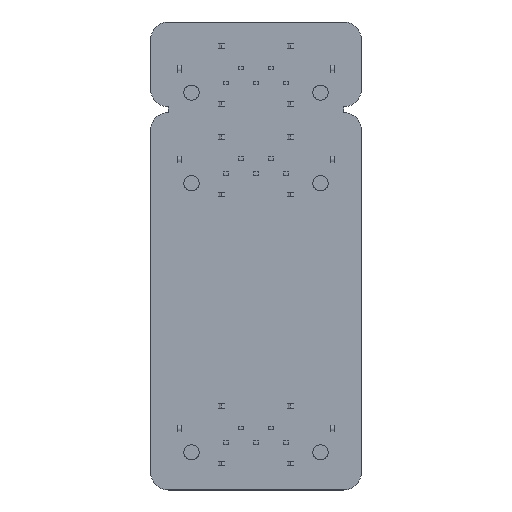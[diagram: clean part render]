
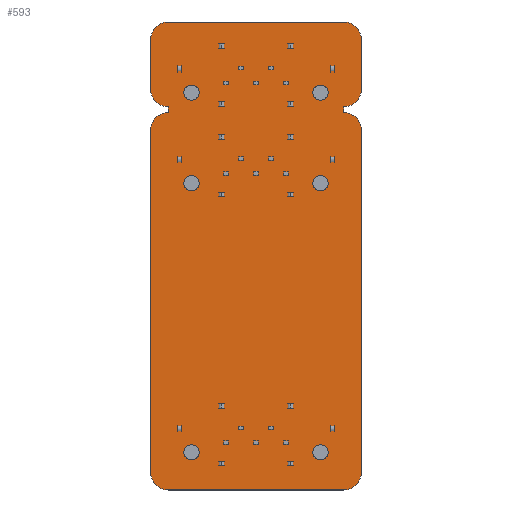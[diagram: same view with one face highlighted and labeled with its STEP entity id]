
A CAD part, top view. The second image highlights one B-rep face of the part: STEP entity #593.
In plain terms, the highlighted planar face has unit normal (0, 0, 1).
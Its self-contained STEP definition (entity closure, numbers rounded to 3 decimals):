
#64 = VERTEX_POINT('',#65);
#65 = CARTESIAN_POINT('',(-3.81,-2.032,0.691));
#71 = EDGE_CURVE('',#64,#72,#74,.T.);
#72 = VERTEX_POINT('',#73);
#73 = CARTESIAN_POINT('',(-4.572,-1.27,0.691));
#74 = CIRCLE('',#75,0.761);
#75 = AXIS2_PLACEMENT_3D('',#76,#77,#78);
#76 = CARTESIAN_POINT('',(-3.811,-1.271,0.691));
#77 = DIRECTION('',(0.,0.,-1.));
#78 = DIRECTION('',(0.001,-1.,0.));
#104 = EDGE_CURVE('',#72,#105,#107,.T.);
#105 = VERTEX_POINT('',#106);
#106 = CARTESIAN_POINT('',(-4.572,13.589,0.691));
#107 = LINE('',#108,#109);
#108 = CARTESIAN_POINT('',(-4.572,-1.27,0.691));
#109 = VECTOR('',#110,1.);
#110 = DIRECTION('',(0.,1.,0.));
#135 = EDGE_CURVE('',#105,#136,#138,.T.);
#136 = VERTEX_POINT('',#137);
#137 = CARTESIAN_POINT('',(-3.81,14.351,0.691));
#138 = CIRCLE('',#139,0.761);
#139 = AXIS2_PLACEMENT_3D('',#140,#141,#142);
#140 = CARTESIAN_POINT('',(-3.811,13.59,0.691));
#141 = DIRECTION('',(0.,0.,-1.));
#142 = DIRECTION('',(-1.,-0.001,0.));
#168 = EDGE_CURVE('',#136,#169,#171,.T.);
#169 = VERTEX_POINT('',#170);
#170 = CARTESIAN_POINT('',(-3.81,14.605,0.691));
#171 = LINE('',#172,#173);
#172 = CARTESIAN_POINT('',(-3.81,14.351,0.691));
#173 = VECTOR('',#174,1.);
#174 = DIRECTION('',(0.,1.,0.));
#199 = EDGE_CURVE('',#169,#200,#202,.T.);
#200 = VERTEX_POINT('',#201);
#201 = CARTESIAN_POINT('',(-4.572,15.367,0.691));
#202 = CIRCLE('',#203,0.761);
#203 = AXIS2_PLACEMENT_3D('',#204,#205,#206);
#204 = CARTESIAN_POINT('',(-3.811,15.366,0.691));
#205 = DIRECTION('',(0.,0.,-1.));
#206 = DIRECTION('',(0.001,-1.,0.));
#232 = EDGE_CURVE('',#200,#233,#235,.T.);
#233 = VERTEX_POINT('',#234);
#234 = CARTESIAN_POINT('',(-4.572,17.526,0.691));
#235 = LINE('',#236,#237);
#236 = CARTESIAN_POINT('',(-4.572,15.367,0.691));
#237 = VECTOR('',#238,1.);
#238 = DIRECTION('',(0.,1.,0.));
#263 = EDGE_CURVE('',#233,#264,#266,.T.);
#264 = VERTEX_POINT('',#265);
#265 = CARTESIAN_POINT('',(-3.81,18.288,0.691));
#266 = CIRCLE('',#267,0.761);
#267 = AXIS2_PLACEMENT_3D('',#268,#269,#270);
#268 = CARTESIAN_POINT('',(-3.811,17.527,0.691));
#269 = DIRECTION('',(0.,0.,-1.));
#270 = DIRECTION('',(-1.,-0.001,0.));
#296 = EDGE_CURVE('',#264,#297,#299,.T.);
#297 = VERTEX_POINT('',#298);
#298 = CARTESIAN_POINT('',(3.81,18.288,0.691));
#299 = LINE('',#300,#301);
#300 = CARTESIAN_POINT('',(-3.81,18.288,0.691));
#301 = VECTOR('',#302,1.);
#302 = DIRECTION('',(1.,0.,0.));
#327 = EDGE_CURVE('',#297,#328,#330,.T.);
#328 = VERTEX_POINT('',#329);
#329 = CARTESIAN_POINT('',(4.572,17.526,0.691));
#330 = CIRCLE('',#331,0.761);
#331 = AXIS2_PLACEMENT_3D('',#332,#333,#334);
#332 = CARTESIAN_POINT('',(3.811,17.527,0.691));
#333 = DIRECTION('',(0.,0.,-1.));
#334 = DIRECTION('',(-0.001,1.,0.));
#360 = EDGE_CURVE('',#328,#361,#363,.T.);
#361 = VERTEX_POINT('',#362);
#362 = CARTESIAN_POINT('',(4.572,15.367,0.691));
#363 = LINE('',#364,#365);
#364 = CARTESIAN_POINT('',(4.572,17.526,0.691));
#365 = VECTOR('',#366,1.);
#366 = DIRECTION('',(0.,-1.,0.));
#391 = EDGE_CURVE('',#361,#392,#394,.T.);
#392 = VERTEX_POINT('',#393);
#393 = CARTESIAN_POINT('',(3.81,14.605,0.691));
#394 = CIRCLE('',#395,0.761);
#395 = AXIS2_PLACEMENT_3D('',#396,#397,#398);
#396 = CARTESIAN_POINT('',(3.811,15.366,0.691));
#397 = DIRECTION('',(0.,0.,-1.));
#398 = DIRECTION('',(1.,0.001,0.));
#424 = EDGE_CURVE('',#392,#425,#427,.T.);
#425 = VERTEX_POINT('',#426);
#426 = CARTESIAN_POINT('',(3.81,14.351,0.691));
#427 = LINE('',#428,#429);
#428 = CARTESIAN_POINT('',(3.81,14.605,0.691));
#429 = VECTOR('',#430,1.);
#430 = DIRECTION('',(0.,-1.,0.));
#455 = EDGE_CURVE('',#425,#456,#458,.T.);
#456 = VERTEX_POINT('',#457);
#457 = CARTESIAN_POINT('',(4.572,13.589,0.691));
#458 = CIRCLE('',#459,0.761);
#459 = AXIS2_PLACEMENT_3D('',#460,#461,#462);
#460 = CARTESIAN_POINT('',(3.811,13.59,0.691));
#461 = DIRECTION('',(0.,0.,-1.));
#462 = DIRECTION('',(-0.001,1.,0.));
#488 = EDGE_CURVE('',#456,#489,#491,.T.);
#489 = VERTEX_POINT('',#490);
#490 = CARTESIAN_POINT('',(4.572,-1.27,0.691));
#491 = LINE('',#492,#493);
#492 = CARTESIAN_POINT('',(4.572,13.589,0.691));
#493 = VECTOR('',#494,1.);
#494 = DIRECTION('',(0.,-1.,0.));
#519 = EDGE_CURVE('',#489,#520,#522,.T.);
#520 = VERTEX_POINT('',#521);
#521 = CARTESIAN_POINT('',(3.81,-2.032,0.691));
#522 = CIRCLE('',#523,0.761);
#523 = AXIS2_PLACEMENT_3D('',#524,#525,#526);
#524 = CARTESIAN_POINT('',(3.811,-1.271,0.691));
#525 = DIRECTION('',(0.,0.,-1.));
#526 = DIRECTION('',(1.,0.001,0.));
#552 = EDGE_CURVE('',#520,#64,#553,.T.);
#553 = LINE('',#554,#555);
#554 = CARTESIAN_POINT('',(3.81,-2.032,0.691));
#555 = VECTOR('',#556,1.);
#556 = DIRECTION('',(-1.,0.,0.));
#593 = ADVANCED_FACE('',(#594),#612,.T.);
#594 = FACE_BOUND('',#595,.F.);
#595 = EDGE_LOOP('',(#596,#597,#598,#599,#600,#601,#602,#603,#604,#605,
    #606,#607,#608,#609,#610,#611));
#596 = ORIENTED_EDGE('',*,*,#71,.T.);
#597 = ORIENTED_EDGE('',*,*,#104,.T.);
#598 = ORIENTED_EDGE('',*,*,#135,.T.);
#599 = ORIENTED_EDGE('',*,*,#168,.T.);
#600 = ORIENTED_EDGE('',*,*,#199,.T.);
#601 = ORIENTED_EDGE('',*,*,#232,.T.);
#602 = ORIENTED_EDGE('',*,*,#263,.T.);
#603 = ORIENTED_EDGE('',*,*,#296,.T.);
#604 = ORIENTED_EDGE('',*,*,#327,.T.);
#605 = ORIENTED_EDGE('',*,*,#360,.T.);
#606 = ORIENTED_EDGE('',*,*,#391,.T.);
#607 = ORIENTED_EDGE('',*,*,#424,.T.);
#608 = ORIENTED_EDGE('',*,*,#455,.T.);
#609 = ORIENTED_EDGE('',*,*,#488,.T.);
#610 = ORIENTED_EDGE('',*,*,#519,.T.);
#611 = ORIENTED_EDGE('',*,*,#552,.T.);
#612 = PLANE('',#613);
#613 = AXIS2_PLACEMENT_3D('',#614,#615,#616);
#614 = CARTESIAN_POINT('',(-3.81,-2.032,0.691));
#615 = DIRECTION('',(0.,0.,1.));
#616 = DIRECTION('',(1.,0.,0.));
